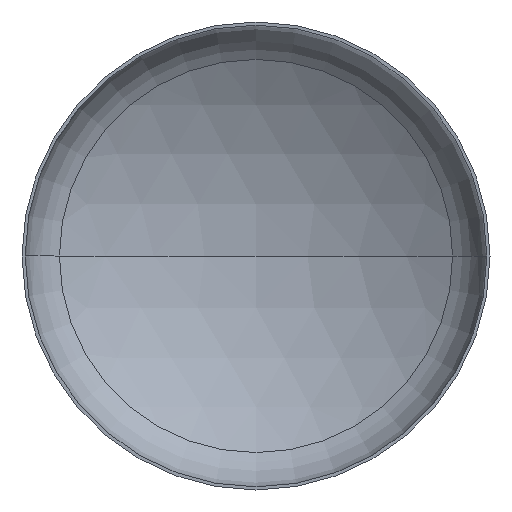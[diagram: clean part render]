
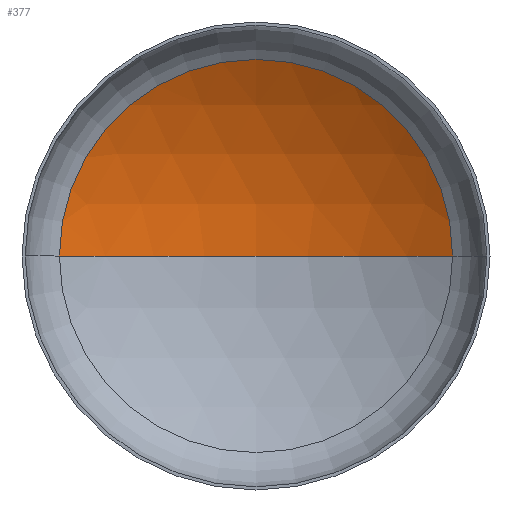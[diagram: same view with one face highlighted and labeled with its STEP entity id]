
A CAD part, front view. The second image highlights one B-rep face of the part: STEP entity #377.
In plain terms, the highlighted spherical face has radius 4000 mm.
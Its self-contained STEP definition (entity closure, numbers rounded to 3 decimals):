
#1 = AXIS2_PLACEMENT_3D ( 'NONE', #183, #361, #209 ) ;
#8 = AXIS2_PLACEMENT_3D ( 'NONE', #399, #284, #344 ) ;
#10 = VERTEX_POINT ( 'NONE', #280 ) ;
#28 = EDGE_LOOP ( 'NONE', ( #59, #99, #43 ) ) ;
#43 = ORIENTED_EDGE ( 'NONE', *, *, #375, .T. ) ;
#47 = VERTEX_POINT ( 'NONE', #283 ) ;
#59 = ORIENTED_EDGE ( 'NONE', *, *, #348, .F. ) ;
#99 = ORIENTED_EDGE ( 'NONE', *, *, #373, .T. ) ;
#107 = VERTEX_POINT ( 'NONE', #195 ) ;
#115 = CARTESIAN_POINT ( 'NONE',  ( 0., 765.312, 0. ) ) ;
#117 = DIRECTION ( 'NONE',  ( 0., -1., 0. ) ) ;
#183 = CARTESIAN_POINT ( 'NONE',  ( 0., -2638.906, 0. ) ) ;
#195 = CARTESIAN_POINT ( 'NONE',  ( 0., 1361.094, 0. ) ) ;
#209 = DIRECTION ( 'NONE',  ( -1., 0., 0. ) ) ;
#259 = AXIS2_PLACEMENT_3D ( 'NONE', #115, #117, #298 ) ;
#278 = SPHERICAL_SURFACE ( 'NONE', #293, 4000. ) ;
#280 = CARTESIAN_POINT ( 'NONE',  ( 2100.31, 765.312, 0. ) ) ;
#283 = CARTESIAN_POINT ( 'NONE',  ( -2100.31, 765.312, 0. ) ) ;
#284 = DIRECTION ( 'NONE',  ( 0., 0., 1. ) ) ;
#286 = CIRCLE ( 'NONE', #1, 4000. ) ;
#293 = AXIS2_PLACEMENT_3D ( 'NONE', #383, #330, #397 ) ;
#295 = CIRCLE ( 'NONE', #8, 4000. ) ;
#298 = DIRECTION ( 'NONE',  ( 1., 0., 0. ) ) ;
#330 = DIRECTION ( 'NONE',  ( 0., 0., -1. ) ) ;
#344 = DIRECTION ( 'NONE',  ( 1., 0., 0. ) ) ;
#348 = EDGE_CURVE ( 'NONE', #107, #47, #295, .T. ) ;
#354 = FACE_OUTER_BOUND ( 'NONE', #28, .T. ) ;
#361 = DIRECTION ( 'NONE',  ( 0., 0., -1. ) ) ;
#373 = EDGE_CURVE ( 'NONE', #107, #10, #286, .T. ) ;
#375 = EDGE_CURVE ( 'NONE', #10, #47, #409, .T. ) ;
#377 = ADVANCED_FACE ( 'NONE', ( #354 ), #278, .F. ) ;
#383 = CARTESIAN_POINT ( 'NONE',  ( 0., -2638.906, 0. ) ) ;
#397 = DIRECTION ( 'NONE',  ( -1., 0., 0. ) ) ;
#399 = CARTESIAN_POINT ( 'NONE',  ( 0., -2638.906, 0. ) ) ;
#409 = CIRCLE ( 'NONE', #259, 2100.31 ) ;
